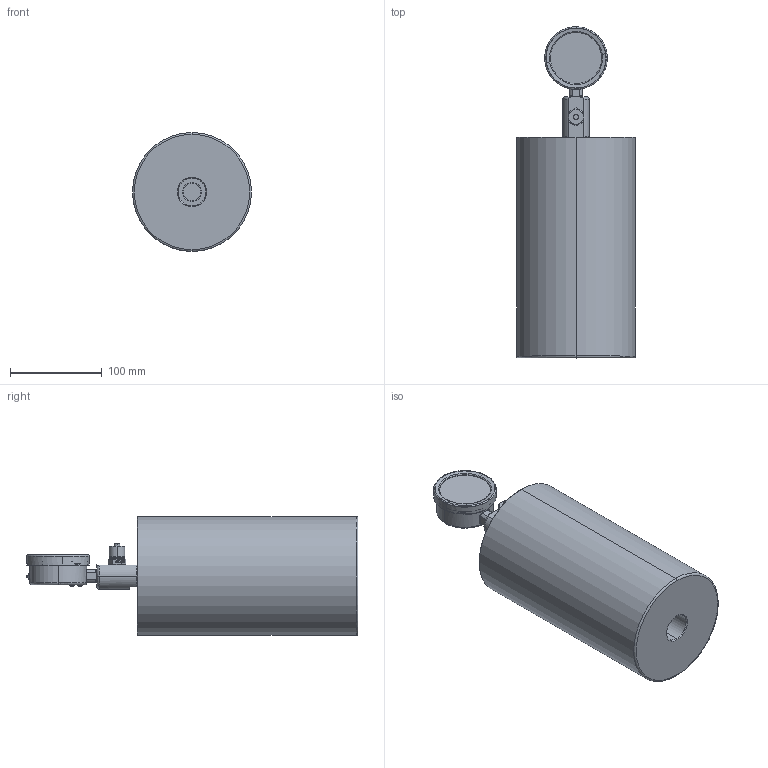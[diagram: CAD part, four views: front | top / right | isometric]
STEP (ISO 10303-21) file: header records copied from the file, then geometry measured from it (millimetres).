
FILE_DESCRIPTION (( 'STEP AP214' ), '1' );
FILE_NAME ('U010A01X1-PD (DGA).STEP', '2025-04-08T14:24:28', ( '' ), ( '' ), 'SwSTEP 2.0', 'SolidWorks 2024', '' );
FILE_SCHEMA (( 'AUTOMOTIVE_DESIGN' ));
Length unit declared in the file: millimetre
Products named in the file (1): U010A01X1-PD (DGA)
Bounding box: 130 x 362.6 x 130 mm (x, y, z)
Surface area: 197219.2 mm2 (no closed solid volume)
Topology: 0 solids, 19 shells, 812 faces, 2608 edges, 1760 vertices
Faces by surface type: plane 303, bspline 187, cylinder 185, cone 77, torus 50, sphere 10
Entity records: 61027 total; most frequent: CARTESIAN_POINT 31308, ORIENTED_EDGE 4420, DIRECTION 3597, EDGE_CURVE 2606, VERTEX_POINT 1760, LINE 1369, VECTOR 1369, AXIS2_PLACEMENT_3D 1114
